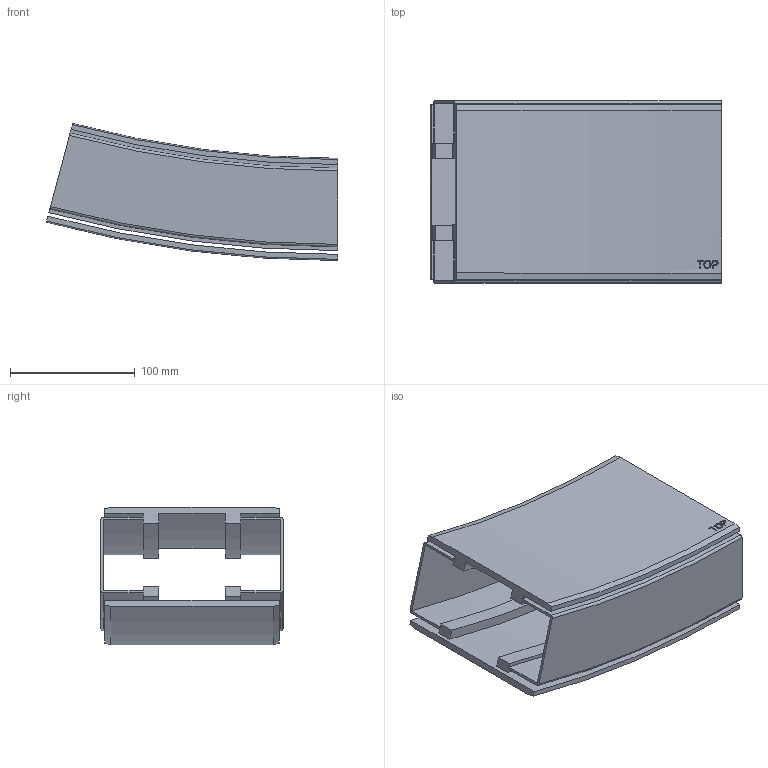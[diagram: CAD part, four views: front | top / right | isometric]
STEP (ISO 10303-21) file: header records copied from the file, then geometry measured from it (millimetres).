
FILE_DESCRIPTION(/* description */ ('VERTIKALKURVA S540 R860'),/* implementation_level */ '2;1');
FILE_NAME(/* name */ '540-5695+140-2000-UPP-01.stp',/* time_stamp */ '2022-09-21T11:13:14+02:00',/* author */ ('Mathias.Dore'),/* organization */ ('CARRYLINE'),/* preprocessor_version */ 'ST-DEVELOPER v19.2',/* originating_system */ 'Autodesk Inventor 2023',/* authorisation */ '');
FILE_SCHEMA (('AUTOMOTIVE_DESIGN { 1 0 10303 214 3 1 1 }'));
Length unit declared in the file: millimetre
Products named in the file (1): 540-5695+140-2000-UPP-01
Bounding box: 233.58 x 146 x 109.96 mm (x, y, z)
Volume: 517158.5 mm3; surface area: 272517.2 mm2
Topology: 2 solids, 2 shells, 87 faces, 234 edges, 156 vertices
Faces by surface type: plane 40, cylinder 25, bspline 14, cone 4, torus 4
Entity records: 7369 total; most frequent: CARTESIAN_POINT 5170, ORIENTED_EDGE 468, DIRECTION 408, EDGE_CURVE 234, VERTEX_POINT 156, AXIS2_PLACEMENT_3D 141, LINE 126, VECTOR 126
